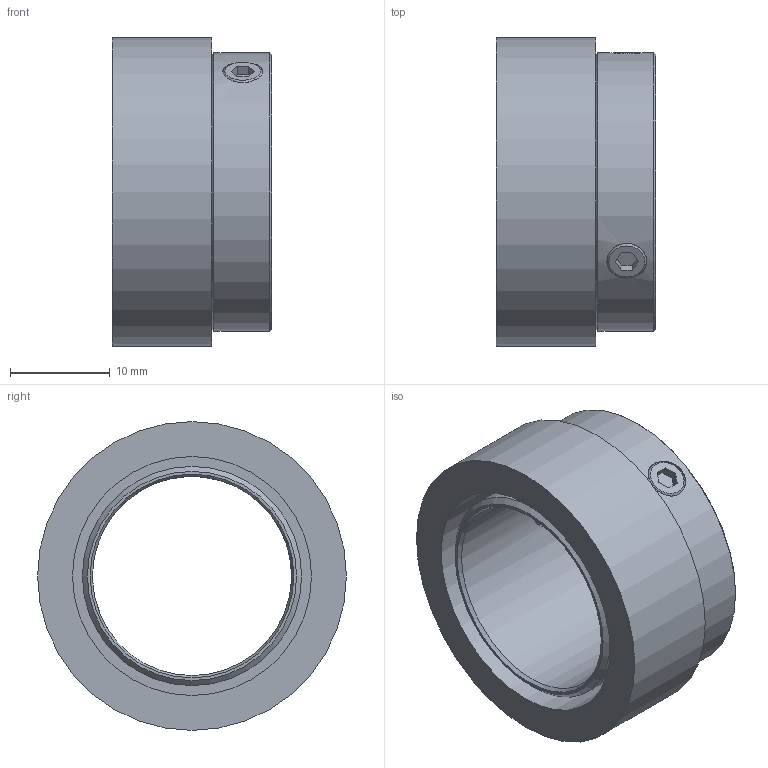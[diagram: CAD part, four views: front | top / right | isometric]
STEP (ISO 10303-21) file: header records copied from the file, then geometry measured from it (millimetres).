
FILE_DESCRIPTION (( 'STEP AP203' ), '1' );
FILE_NAME ('8.RI20.031.2000.111.STEP', '2013-07-30T11:40:14', ( 'Hodot' ), ( '' ), 'SwSTEP 2.0', 'SolidWorks 2012', '' );
FILE_SCHEMA (( 'CONFIG_CONTROL_DESIGN' ));
Length unit declared in the file: millimetre
Products named in the file (1): 8.RI20.031.2000.111
Bounding box: 16 x 31 x 31 mm (x, y, z)
Volume: 5386.6 mm3; surface area: 5246.7 mm2
Topology: 4 solids, 4 shells, 47 faces, 107 edges, 70 vertices
Faces by surface type: plane 24, cylinder 13, cone 10
Full cylindrical faces by diameter (mm): 4 x4, 20 x1, 22 x1, 24 x1, 28 x1, 31 x1
Entity records: 1425 total; most frequent: CARTESIAN_POINT 414, DIRECTION 192, ORIENTED_EDGE 156, AXIS2_PLACEMENT_3D 78, EDGE_CURVE 78, EDGE_LOOP 76, VERTEX_POINT 60, FACE_OUTER_BOUND 56
